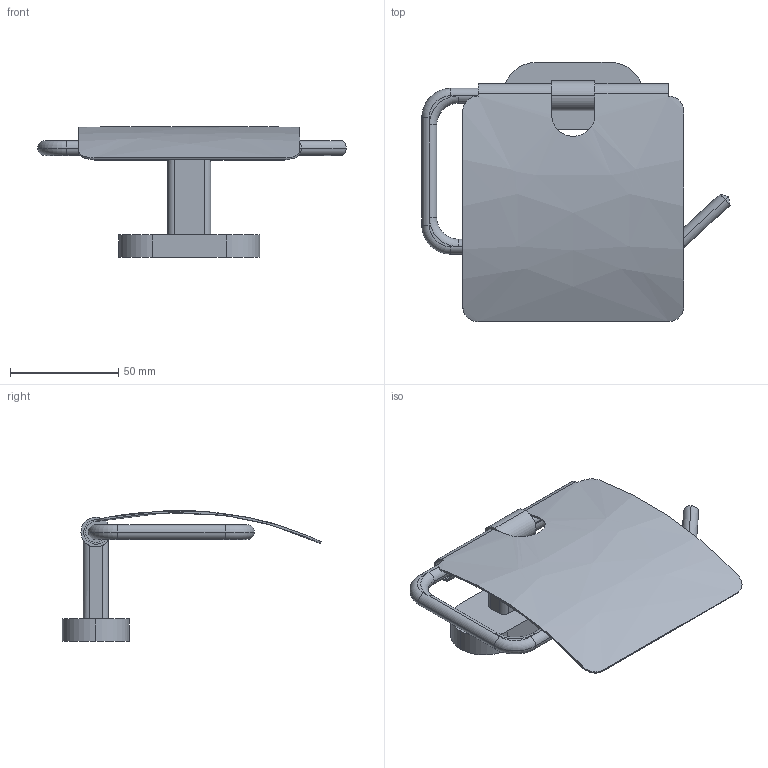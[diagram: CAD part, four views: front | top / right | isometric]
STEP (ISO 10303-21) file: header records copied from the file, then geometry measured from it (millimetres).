
FILE_DESCRIPTION (( 'STEP AP203' ), '1' );
FILE_NAME ('PL18809.STEP', '2018-08-27T10:54:06', ( '' ), ( '' ), 'SwSTEP 2.0', 'SolidWorks 2018', '' );
FILE_SCHEMA (( 'CONFIG_CONTROL_DESIGN' ));
Length unit declared in the file: millimetre
Products named in the file (1): PL18809
Bounding box: 142.53 x 119.85 x 60.39 mm (x, y, z)
Volume: 52188.9 mm3; surface area: 39917.5 mm2
Topology: 3 solids, 3 shells, 85 faces, 209 edges, 127 vertices
Faces by surface type: cylinder 39, plane 28, torus 12, cone 4, bspline 2
Entity records: 2892 total; most frequent: CARTESIAN_POINT 822, DIRECTION 433, ORIENTED_EDGE 410, EDGE_CURVE 205, AXIS2_PLACEMENT_3D 170, VERTEX_POINT 127, LINE 93, VECTOR 93
